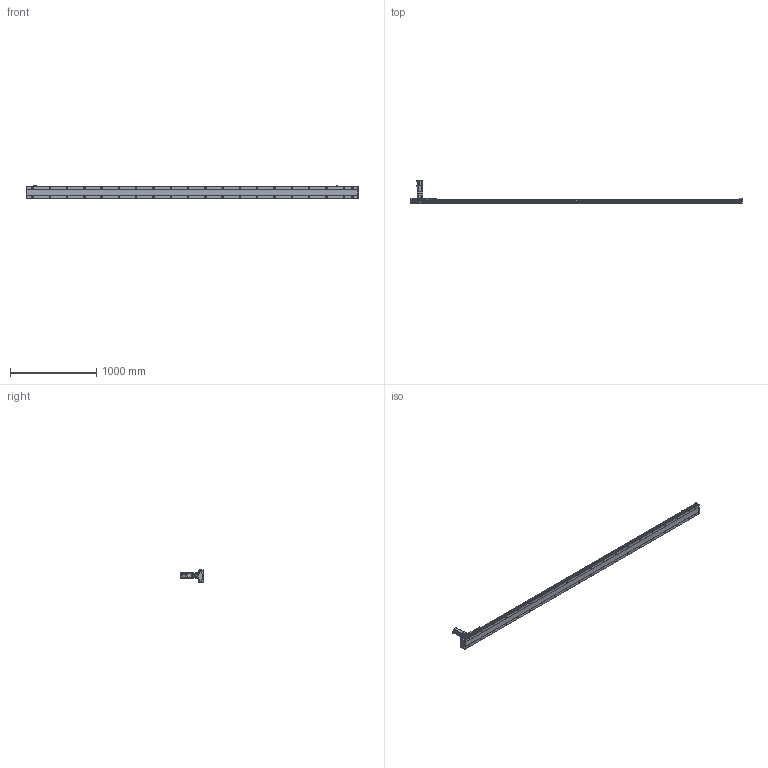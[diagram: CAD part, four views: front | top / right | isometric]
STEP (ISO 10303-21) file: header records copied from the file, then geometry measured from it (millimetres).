
FILE_DESCRIPTION(/* description */ ('STEP AP203'),/* implementation_level */ '2;1');
FILE_NAME(/* name */ 'SHS14A-L10-S3500-BC-T40-C1-N(0)',/* time_stamp */ '2023-03-27T08:28:58+02:00',/* author */ ('License CC BY-ND 4.0'),/* organization */ ('CADENAS'),/* preprocessor_version */ 'ST-DEVELOPER v19.3',/* originating_system */ 'PARTsolutions',/* authorisation */ ' ');
FILE_SCHEMA (('CONFIG_CONTROL_DESIGN'));
Length unit declared in the file: millimetre
Products named in the file (7): SHS14A-L10-S3500-BC-T40-C1-N(0); PSC140-sensor; T40-p1; SHS14AT_body3; SHS14A-3500_slider; SHS14A_body2; SHS14A-S3500-BC-T40-C1(0)_body
Assembly tree (13 placements, depth 2):
  SHS14A-L10-S3500-BC-T40-C1-N(0)
    PSC140-sensor  x3
    T40-p1
    SHS14AT_body3
    SHS14A-3500_slider
    SHS14A_body2  x6
    SHS14A-S3500-BC-T40-C1(0)_body
Bounding box: 3840 x 272.7 x 150.9 mm (x, y, z)
Volume: 15435870.7 mm3; surface area: 2390927.8 mm2
Topology: 13 solids, 13 shells, 2220 faces, 5663 edges, 3702 vertices
Faces by surface type: plane 1515, cylinder 603, cone 92, torus 10
Full cylindrical faces by diameter (mm): 2.8 x3, 4.134 x24, 4.2 x7, 4.4 x24, 4.5 x24, 4.6 x3, 4.8 x24, 4.917 x48, 5 x8, 5.5 x11, 5.94 x6, 6 x2, 6.6 x40, 8 x24, 8.49 x4, 8.5 x4, 9 x4, 10.5 x40, 13.964 x1, 14 x1, 14.182 x1, 16 x1, 18.974 x1, 19.274 x1, 19.774 x1, 19.8 x1, 34.442 x1, 42 x1, 50 x5
Entity records: 36890 total; most frequent: CARTESIAN_POINT 6642, DIRECTION 6231, ORIENTED_EDGE 5682, EDGE_CURVE 2841, AXIS2_PLACEMENT_3D 2209, VERTEX_POINT 2044, EDGE_LOOP 1919, FACE_BOUND 1919
